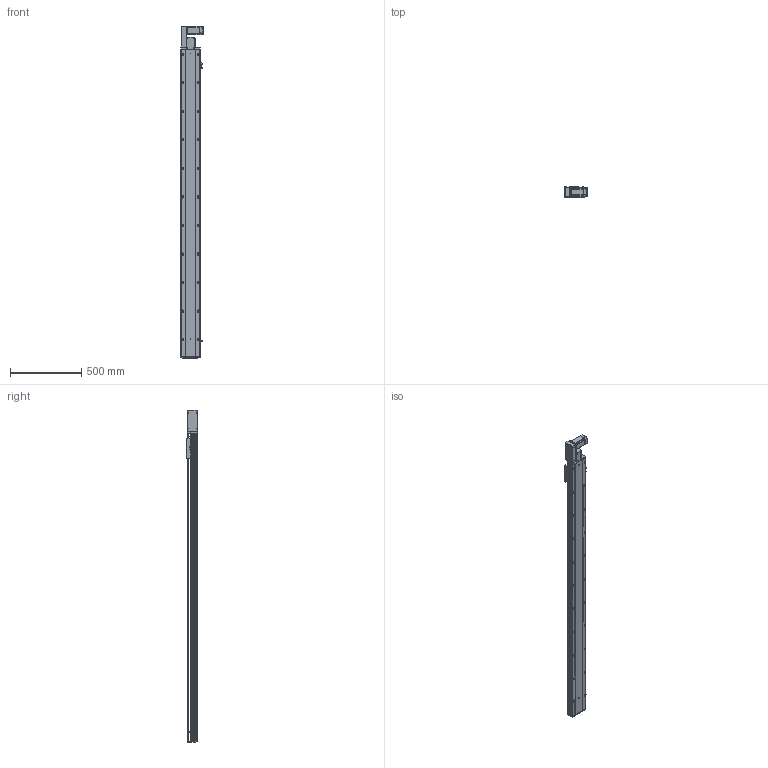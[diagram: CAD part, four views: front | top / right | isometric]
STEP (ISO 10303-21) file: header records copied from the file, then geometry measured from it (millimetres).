
FILE_DESCRIPTION (( 'STEP AP203' ), '1' );
FILE_NAME ('RY140-T-300-LK.SLDASM_1900.step', '2021-03-01T06:36:53', ( '盈信电脑' ), ( '东莞市道滘镇水果街19号' ), 'SwSTEP 2.0', 'SolidWorks 2012', '' );
FILE_SCHEMA (( 'CONFIG_CONTROL_DESIGN' ));
Products named in the file (18): 滅袉蝶18-10; RY140-T翋肮謫裔啣; RY140-T-300-LK.SLDASM_1900; 侂狟400W侜督萇儂; RY120-T蹟翐M4; RY140-T萇儂欶; RY120-T主同步轮轴承压盖; RY140-T萇儂假蚾啣; RY140-T翋肮祭謫盓傅釱; 15; 覜茼ん672; RY120-T肮祭湍揤踡輸1; RY120外置感应片(140共用）; RY120-T肮祭湍揤踡輸2; RY140肮祭謫臏賑輸; RY140-T-300-DL倰第奻裔啣_1900; RY140綴裔啣; RY140-T-300-DL倰第菁釱_1900
Assembly tree (23 placements, depth 3):
  RY140-T-300-LK.SLDASM_1900
    RY140-T-300-DL倰第菁釱_1900
    RY140肮祭謫臏賑輸
    RY140-T-300-DL倰第奻裔啣_1900
    RY140綴裔啣
    覜茼ん672  x3
    RY120外置感应片(140共用）
    RY120-T肮祭湍揤踡輸2
    RY120-T肮祭湍揤踡輸1
    RY140-T翋肮祭謫盓傅釱
    RY140-T萇儂假蚾啣
    侂狟400W侜督萇儂
      15
    RY120-T主同步轮轴承压盖
    RY120-T蹟翐M4  x4
    RY140-T萇儂欶
    滅袉蝶18-10  x2
    RY140-T翋肮謫裔啣
Bounding box: 157 x 78 x 2326.5 mm (x, y, z)
Volume: 6149766.1 mm3; surface area: 2403167 mm2
Topology: 22 solids, 22 shells, 2855 faces, 7837 edges, 4988 vertices
Faces by surface type: plane 1381, cylinder 1092, cone 282, bspline 100
Entity records: 90261 total; most frequent: CARTESIAN_POINT 21907, ORIENTED_EDGE 14034, DIRECTION 13425, EDGE_CURVE 7017, VERTEX_POINT 4587, AXIS2_PLACEMENT_3D 4512, VECTOR 4401, LINE 4401
